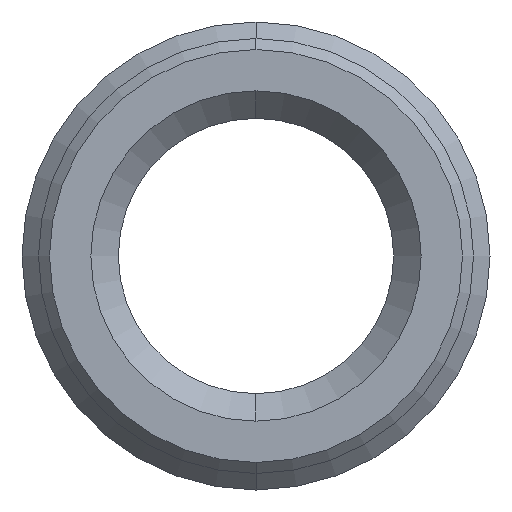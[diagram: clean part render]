
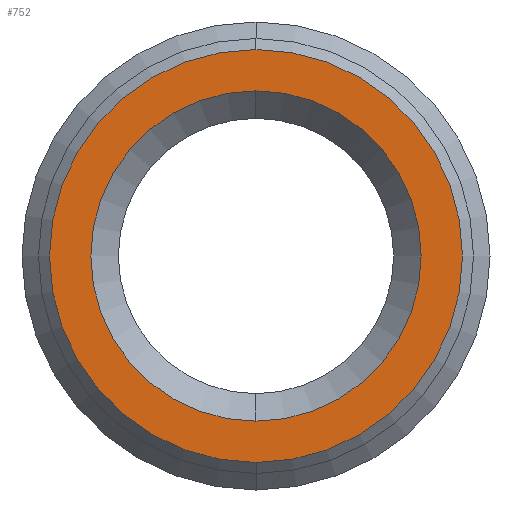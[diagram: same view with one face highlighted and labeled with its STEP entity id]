
A CAD part, left-side view. The second image highlights one B-rep face of the part: STEP entity #752.
In plain terms, the highlighted planar face has unit normal (-1, 0, 0).
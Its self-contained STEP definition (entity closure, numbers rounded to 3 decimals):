
#42 = VERTEX_POINT ( 'NONE', #973 ) ;
#51 = CIRCLE ( 'NONE', #620, 3.75 ) ;
#171 = CIRCLE ( 'NONE', #848, 3.75 ) ;
#198 = DIRECTION ( 'NONE',  ( 1., 0., 0. ) ) ;
#216 = FACE_OUTER_BOUND ( 'NONE', #839, .T. ) ;
#222 = AXIS2_PLACEMENT_3D ( 'NONE', #927, #1239, #733 ) ;
#232 = ORIENTED_EDGE ( 'NONE', *, *, #356, .T. ) ;
#235 = EDGE_CURVE ( 'NONE', #970, #42, #171, .T. ) ;
#328 = DIRECTION ( 'NONE',  ( 1., 0., 0. ) ) ;
#356 = EDGE_CURVE ( 'NONE', #643, #625, #782, .T. ) ;
#359 = ORIENTED_EDGE ( 'NONE', *, *, #235, .F. ) ;
#431 = DIRECTION ( 'NONE',  ( 0., 0., 1. ) ) ;
#473 = AXIS2_PLACEMENT_3D ( 'NONE', #1215, #328, #726 ) ;
#577 = CARTESIAN_POINT ( 'NONE',  ( -6.35, 0., 3. ) ) ;
#584 = CARTESIAN_POINT ( 'NONE',  ( -6.35, 0., -3. ) ) ;
#614 = PLANE ( 'NONE',  #473 ) ;
#620 = AXIS2_PLACEMENT_3D ( 'NONE', #716, #1208, #431 ) ;
#625 = VERTEX_POINT ( 'NONE', #584 ) ;
#628 = CARTESIAN_POINT ( 'NONE',  ( -6.35, 0., 3.75 ) ) ;
#641 = CIRCLE ( 'NONE', #951, 3. ) ;
#643 = VERTEX_POINT ( 'NONE', #577 ) ;
#674 = ORIENTED_EDGE ( 'NONE', *, *, #826, .T. ) ;
#716 = CARTESIAN_POINT ( 'NONE',  ( -6.35, 0., 0. ) ) ;
#726 = DIRECTION ( 'NONE',  ( 0., 0., 1. ) ) ;
#728 = EDGE_CURVE ( 'NONE', #42, #970, #51, .T. ) ;
#733 = DIRECTION ( 'NONE',  ( 0., 0., -1. ) ) ;
#752 = ADVANCED_FACE ( 'NONE', ( #1111, #216 ), #614, .F. ) ;
#782 = CIRCLE ( 'NONE', #222, 3. ) ;
#786 = ORIENTED_EDGE ( 'NONE', *, *, #728, .F. ) ;
#826 = EDGE_CURVE ( 'NONE', #625, #643, #641, .T. ) ;
#839 = EDGE_LOOP ( 'NONE', ( #359, #786 ) ) ;
#848 = AXIS2_PLACEMENT_3D ( 'NONE', #994, #198, #1181 ) ;
#927 = CARTESIAN_POINT ( 'NONE',  ( -6.35, 0., 0. ) ) ;
#951 = AXIS2_PLACEMENT_3D ( 'NONE', #1256, #959, #1276 ) ;
#959 = DIRECTION ( 'NONE',  ( 1., 0., 0. ) ) ;
#970 = VERTEX_POINT ( 'NONE', #628 ) ;
#973 = CARTESIAN_POINT ( 'NONE',  ( -6.35, 0., -3.75 ) ) ;
#981 = EDGE_LOOP ( 'NONE', ( #232, #674 ) ) ;
#994 = CARTESIAN_POINT ( 'NONE',  ( -6.35, 0., 0. ) ) ;
#1111 = FACE_BOUND ( 'NONE', #981, .T. ) ;
#1181 = DIRECTION ( 'NONE',  ( 0., 0., 1. ) ) ;
#1208 = DIRECTION ( 'NONE',  ( 1., 0., 0. ) ) ;
#1215 = CARTESIAN_POINT ( 'NONE',  ( -6.35, 3.95, 0. ) ) ;
#1239 = DIRECTION ( 'NONE',  ( 1., 0., 0. ) ) ;
#1256 = CARTESIAN_POINT ( 'NONE',  ( -6.35, 0., 0. ) ) ;
#1276 = DIRECTION ( 'NONE',  ( 0., 0., -1. ) ) ;
